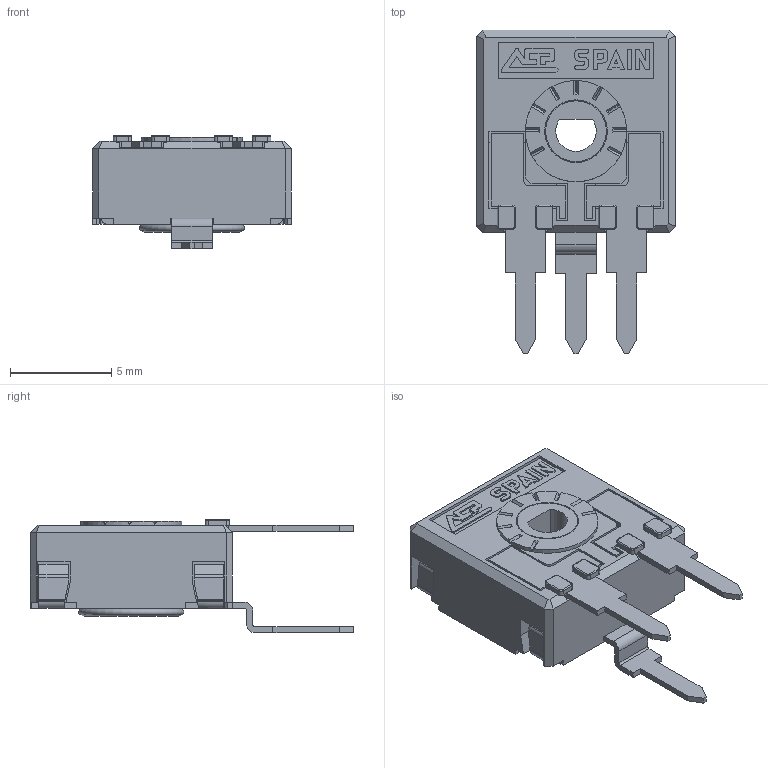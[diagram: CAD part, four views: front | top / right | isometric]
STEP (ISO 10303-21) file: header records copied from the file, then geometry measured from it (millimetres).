
FILE_DESCRIPTION(/* description */ (''),/* implementation_level */ '2;1');
FILE_NAME(/* name */ 'COMCA9DH5.stp',/* time_stamp */ '2026-03-30T17:19:04+02:00',/* author */ ('CEM'),/* organization */ (''),/* preprocessor_version */ 'ST-DEVELOPER v20.1',/* originating_system */ 'Autodesk Inventor 2026',/* authorisation */ '');
FILE_SCHEMA (('AUTOMOTIVE_DESIGN { 1 0 10303 214 3 1 1 }'));
Length unit declared in the file: millimetre
Products named in the file (1): COMCA9DH5
Bounding box: 9.8 x 16 x 5.6 mm (x, y, z)
Volume: 244.1 mm3; surface area: 831.6 mm2
Topology: 2 solids, 2 shells, 588 faces, 1664 edges, 1063 vertices
Faces by surface type: plane 468, cylinder 84, torus 19, cone 17
Full cylindrical faces by diameter (mm): 3 x1, 3.1 x1, 4 x1, 4.8 x1, 5 x1
Entity records: 19031 total; most frequent: CARTESIAN_POINT 3374, ORIENTED_EDGE 3328, DIRECTION 3089, EDGE_CURVE 1664, LINE 1361, VECTOR 1361, VERTEX_POINT 1063, AXIS2_PLACEMENT_3D 864
